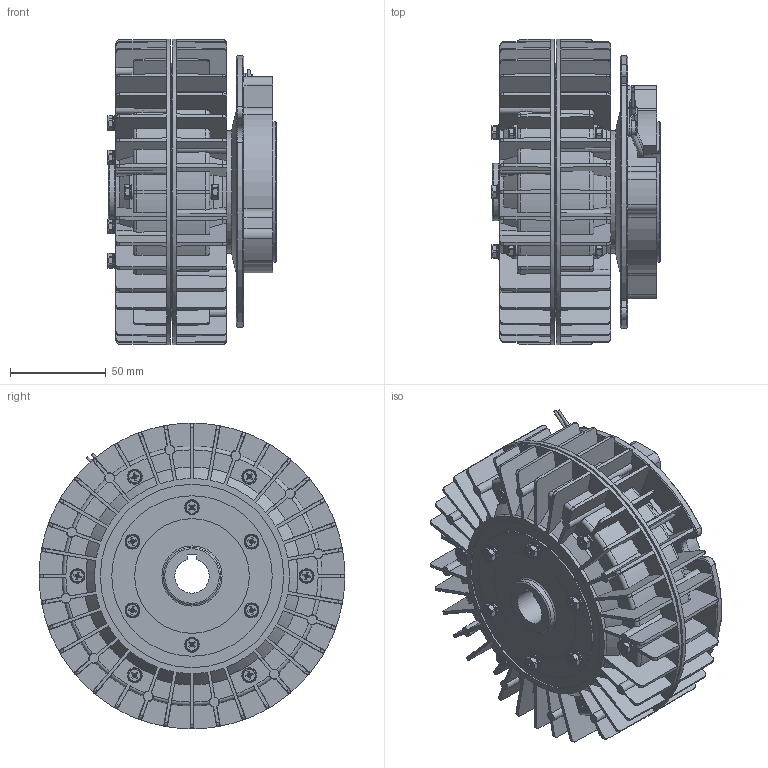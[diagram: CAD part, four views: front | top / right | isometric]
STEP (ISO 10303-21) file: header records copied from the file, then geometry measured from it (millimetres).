
FILE_DESCRIPTION(('STEP AP214'), '1');
FILE_NAME('POB', '2022-02-28T16:21:29', ('AF'), (''), 'UNSPECIFIED', 'UNSPECIFIED', '');
FILE_SCHEMA(('AUTOMOTIVE_DESIGN { 1 0 10303 214 3 1 1}'));
Length unit declared in the file: millimetre
Products named in the file (13): SKF_6005-2RSL; _SKF_6005-2RSL_PART1; _SKF_6005-2RSL_PART2; _SKF_6005-2RSL_PART3
Assembly tree (41 placements, depth 3):
  (unnamed)
    (unnamed)
    (unnamed)
    (unnamed)
    SKF_6005-2RSL
      _SKF_6005-2RSL_PART1
      _SKF_6005-2RSL_PART2
      _SKF_6005-2RSL_PART3  x10
    (unnamed)
    (unnamed)
    (unnamed)  x18
    (unnamed)  x4
    (unnamed)
Bounding box: 88.4 x 160 x 160 mm (x, y, z)
Volume: 455411.5 mm3; surface area: 267088.7 mm2
Topology: 86 solids, 86 shells, 2889 faces, 6875 edges, 4156 vertices
Faces by surface type: plane 1114, cone 544, cylinder 464, torus 450, bspline 306, sphere 11
Full cylindrical faces by diameter (mm): 1.5 x2, 2 x2, 3 x6, 3.242 x3, 4 x45, 4.3 x22, 4.917 x3, 5 x1, 7 x4, 7.8 x22, 8 x1, 23.5 x1, 25 x3, 29.45 x2, 30 x1, 32 x2, 39.8 x2, 42.2 x4, 42.3 x1, 47 x2, 60 x2, 64 x1, 66 x1, 80 x1, 84 x1, 96 x1, 130 x2, 160 x2
Entity records: 65669 total; most frequent: CARTESIAN_POINT 22073, ORIENTED_EDGE 6736, DIRECTION 6470, EDGE_CURVE 3368, AXIS2_PLACEMENT_3D 2839, VERTEX_POINT 2236, EDGE_LOOP 1590, CIRCLE 1486
